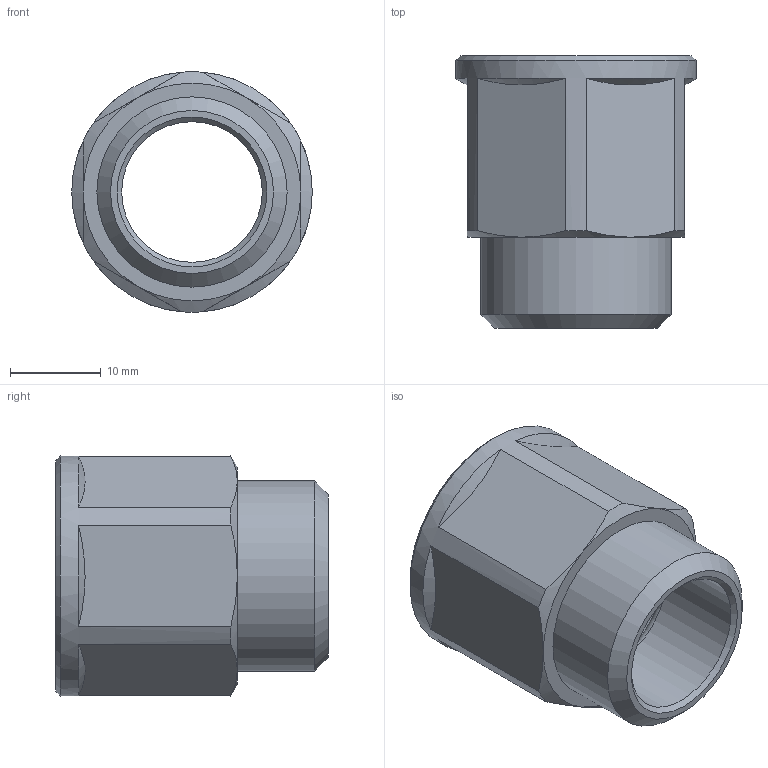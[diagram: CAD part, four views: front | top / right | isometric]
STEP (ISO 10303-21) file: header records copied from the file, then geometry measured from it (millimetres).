
FILE_DESCRIPTION(('STEP AP203'), '1');
FILE_NAME('ÂÐ.753128.016 - VTr.197.N.0420 Ôèò. ðåçüá. óäë', '2024-06-27T05:53:43', ('Boss'), (''), 'C3D Converter', 'C3D Toolkit', '');
FILE_SCHEMA(('CONFIG_CONTROL_DESIGN'));
Length unit declared in the file: millimetre
Products named in the file (1): ВР.753128.016
Bounding box: 26.5 x 30 x 26.5 mm (x, y, z)
Volume: 6110.3 mm3; surface area: 4441.8 mm2
Topology: 1 solids, 1 shells, 31 faces, 70 edges, 43 vertices
Faces by surface type: cone 16, plane 10, cylinder 4, torus 1
Full cylindrical faces by diameter (mm): 15.5 x1, 18.632 x1, 20.955 x1, 26.5 x1
Entity records: 1312 total; most frequent: CARTESIAN_POINT 640, DIRECTION 134, ORIENTED_EDGE 118, AXIS2_PLACEMENT_3D 61, EDGE_CURVE 59, VERTEX_POINT 48, EDGE_LOOP 43, ADVANCED_FACE 30
